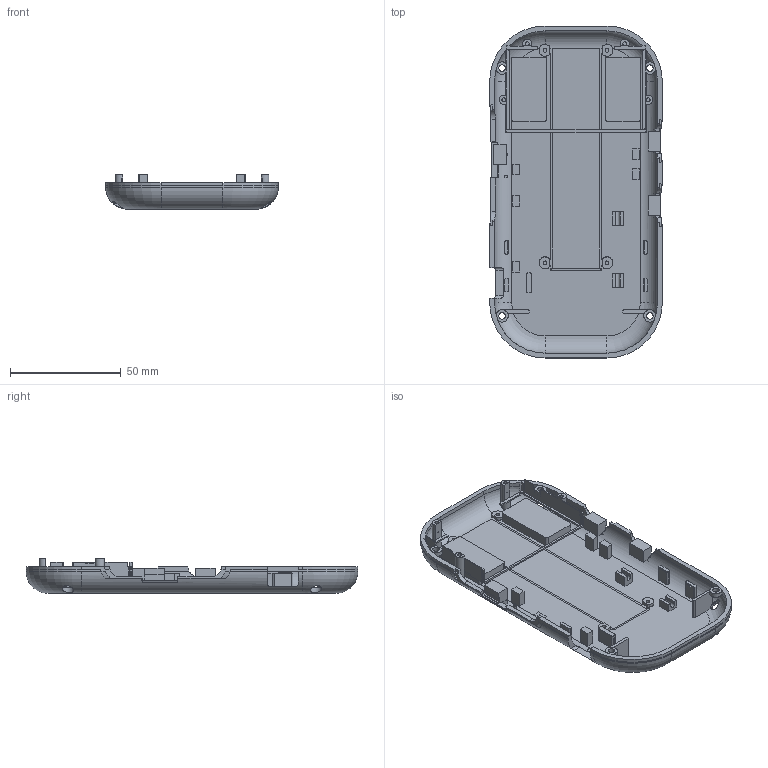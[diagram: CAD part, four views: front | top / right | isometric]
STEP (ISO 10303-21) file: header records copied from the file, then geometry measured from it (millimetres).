
FILE_DESCRIPTION(('Open CASCADE Model'),'2;1');
FILE_NAME('Open CASCADE Shape Model','2026-09-15T13:06:29',('Author'),( 'Open CASCADE'),'Open CASCADE STEP processor 7.7','Open CASCADE 7.7' ,'Unknown');
FILE_SCHEMA(('AUTOMOTIVE_DESIGN { 1 0 10303 214 1 1 1 1 }'));
Length unit declared in the file: millimetre
Products named in the file (1): Open CASCADE STEP translator 7.7 5
Bounding box: 78 x 150 x 15.65 mm (x, y, z)
Volume: 35768.2 mm3; surface area: 32658.2 mm2
Topology: 1 solids, 1 shells, 593 faces, 1785 edges, 1217 vertices
Faces by surface type: plane 384, cylinder 175, torus 18, cone 16
Full cylindrical faces by diameter (mm): 1.7 x8, 2.9 x4, 4.2 x4
Entity records: 61703 total; most frequent: CARTESIAN_POINT 27485, DIRECTION 6085, LINE 3637, VECTOR 3637, ORIENTED_EDGE 3570, PCURVE 3570, DEFINITIONAL_REPRESENTATION 3570, EDGE_CURVE 1785
